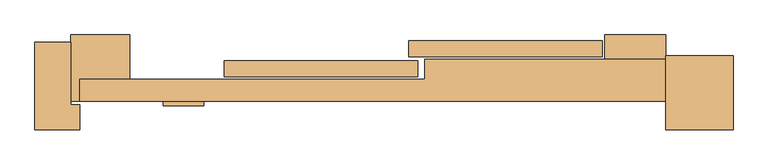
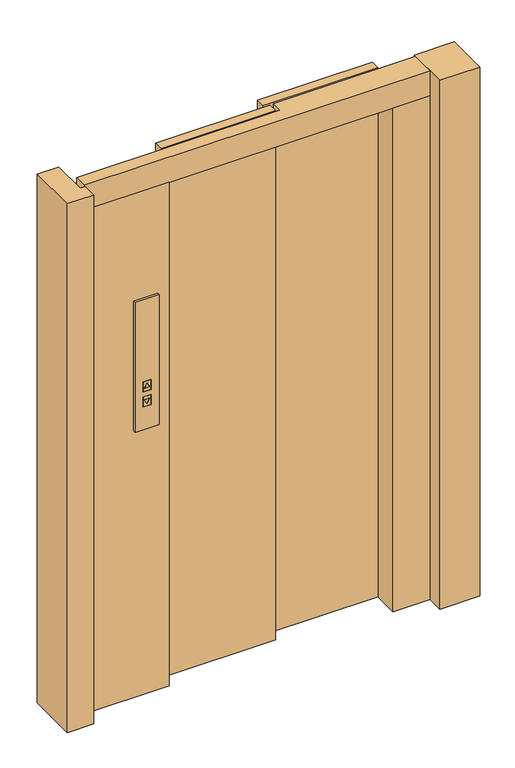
"""IFC4 building model written with IfcOpenShell, lengths in millimetres: door geometry, エレベータ住宅用ドア - トランク付 : 9 人乗."""

import ifcopenshell
import ifcopenshell.guid

model = None  # the IFC model being written
_history = None  # IfcOwnerHistory: only IFC2X3 demands one
_inside = {}  # id of a spatial element -> (the spatial element, [elements in it])
_under = {}  # id of a project, library or spatial element -> (it, [spatial elements below it])
_declared = {}  # id of a project -> (the project, [libraries it declares])
_typed = {}  # id of a type object -> (the type object, [elements of that type])
_made_of = {}  # id of a material, layer set ... -> (it, [elements and type objects made of it])


def new_model(schema):
    """Start an empty IFC model of exactly this schema.

    Asked for "IFC4X3", IfcOpenShell would pick the latest addendum, in which some entities
    have other attributes; the version numbers below select the first issue.
    IFC2X3 requires an IfcOwnerHistory on every rooted entity: one is made here for all.
    """
    global model, _history
    if schema == "IFC4X3":
        model = ifcopenshell.file(schema_version=(4, 3, 0, 0))
    else:
        model = ifcopenshell.file(schema=schema)
    _inside.clear()
    _under.clear()
    _declared.clear()
    _typed.clear()
    _made_of.clear()
    _history = None
    if model.schema == "IFC2X3":
        org = make("IfcOrganization", Name="unknown")
        user = make(
            "IfcPersonAndOrganization",
            ThePerson=make("IfcPerson", FamilyName="unknown"),
            TheOrganization=org,
        )
        app = make(
            "IfcApplication",
            ApplicationDeveloper=org,
            Version="unknown",
            ApplicationFullName="unknown",
            ApplicationIdentifier="unknown",
        )
        _history = make(
            "IfcOwnerHistory",
            OwningUser=user,
            OwningApplication=app,
            ChangeAction="ADDED",
            CreationDate=0,
        )
    return model


def make(cls, **values):
    """One entity of the class cls with the attributes given. An attribute that is None is left unset."""
    return model.create_entity(
        cls, **{name: value for name, value in values.items() if value is not None}
    )


def rooted(cls, **values):
    """An entity with a GlobalId (a new one), such as an element, a storey or a relation."""
    return make(cls, GlobalId=ifcopenshell.guid.new(), OwnerHistory=_history, **values)


def si_unit(unit_type, name, prefix=None):
    """IfcSIUnit, for example si_unit("LENGTHUNIT", "METRE", prefix="MILLI")."""
    return make("IfcSIUnit", UnitType=unit_type, Prefix=prefix, Name=name)


def assignment(units):
    """IfcUnitAssignment: the units of a project."""
    return None if units is None else make("IfcUnitAssignment", Units=units)


def point(xyz):
    """IfcCartesianPoint."""
    return None if xyz is None else make("IfcCartesianPoint", Coordinates=xyz)


def direction(xyz):
    """IfcDirection."""
    return None if xyz is None else make("IfcDirection", DirectionRatios=xyz)


def frame(location, z_axis=None, x_axis=None):
    """IfcAxis2Placement3D, a coordinate frame: its origin and axes. An axis left out is left unset."""
    return make(
        "IfcAxis2Placement3D",
        Location=point(location),
        Axis=direction(z_axis),
        RefDirection=direction(x_axis),
    )


def origin():
    """The frame at (0, 0, 0) with its axes left unset."""
    return frame((0.0, 0.0, 0.0))


def origin_with_axes():
    """The frame at (0, 0, 0) with the z axis (0, 0, 1) and the x axis (1, 0, 0) written out."""
    return frame((0.0, 0.0, 0.0), z_axis=(0.0, 0.0, 1.0), x_axis=(1.0, 0.0, 0.0))


def place(relative_to, where):
    """IfcLocalPlacement: puts the frame where relative to a parent placement (None: the world)."""
    return make(
        "IfcLocalPlacement", PlacementRelTo=relative_to, RelativePlacement=where
    )


def context(
    kind, dimensions, precision=None, world=None, true_north=None, identifier=None
):
    """IfcGeometricRepresentationContext, for example the 3D "Model" context."""
    return make(
        "IfcGeometricRepresentationContext",
        ContextIdentifier=identifier,
        ContextType=kind,
        CoordinateSpaceDimension=dimensions,
        Precision=precision,
        WorldCoordinateSystem=world,
        TrueNorth=true_north,
    )


def project(units=None, contexts=None):
    """IfcProject with its units and contexts."""
    return rooted(
        "IfcProject",
        Name="project",
        RepresentationContexts=contexts,
        UnitsInContext=assignment(units),
    )


def spatial(cls, under=None, at=None, **own):
    """A site, building, storey or space (cls), placed at a placement, below another one or the project."""
    s = rooted(cls, ObjectPlacement=at, **own)
    if under is not None:
        _under.setdefault(under.id(), (under, []))[1].append(s)
    return s


def polyline(points):
    """IfcPolyline through the points."""
    return make("IfcPolyline", Points=[point(p) for p in points])


def outline(outer, holes=None, kind="AREA"):
    """IfcArbitraryClosedProfileDef: a profile drawn as a closed curve; with holes, ...WithVoids."""
    if holes is None:
        return make("IfcArbitraryClosedProfileDef", ProfileType=kind, OuterCurve=outer)
    return make(
        "IfcArbitraryProfileDefWithVoids",
        ProfileType=kind,
        OuterCurve=outer,
        InnerCurves=holes,
    )


def extrude(swept, where, along, depth):
    """IfcExtrudedAreaSolid: the profile swept, set in the frame where, extruded along a direction by depth."""
    return make(
        "IfcExtrudedAreaSolid",
        SweptArea=swept,
        Position=where,
        ExtrudedDirection=direction(along),
        Depth=depth,
    )


def shape(context_of_items, identifier, shape_type, items):
    """IfcShapeRepresentation: the items that make up one representation, for example the "Body"."""
    return make(
        "IfcShapeRepresentation",
        ContextOfItems=context_of_items,
        RepresentationIdentifier=identifier,
        RepresentationType=shape_type,
        Items=items,
    )


def source(mapping_origin, context_of_items, identifier, shape_type, items):
    """IfcRepresentationMap: a shape defined once, which mapped items show again and again."""
    return make(
        "IfcRepresentationMap",
        MappingOrigin=mapping_origin,
        MappedRepresentation=shape(context_of_items, identifier, shape_type, items),
    )


def transform(
    local_origin,
    x_axis=None,
    y_axis=None,
    z_axis=None,
    scale=None,
    scale2=None,
    scale3=None,
    uniform=True,
):
    """IfcCartesianTransformationOperator3D, or its non-uniform kind. x_axis, y_axis, z_axis: its Axis1, 2, 3."""
    if uniform:
        return make(
            "IfcCartesianTransformationOperator3D",
            Axis1=direction(x_axis),
            Axis2=direction(y_axis),
            LocalOrigin=point(local_origin),
            Scale=scale,
            Axis3=direction(z_axis),
        )
    return make(
        "IfcCartesianTransformationOperator3DnonUniform",
        Axis1=direction(x_axis),
        Axis2=direction(y_axis),
        LocalOrigin=point(local_origin),
        Scale=scale,
        Axis3=direction(z_axis),
        Scale2=scale2,
        Scale3=scale3,
    )


def mapped(mapping_source, mapping_target):
    """IfcMappedItem: shows the shape of a source again, moved by a transform."""
    return make(
        "IfcMappedItem", MappingSource=mapping_source, MappingTarget=mapping_target
    )


def made_of(thing, what):
    """Note that an element or type object is made of a material, layer set ...; save() writes the relation."""
    if what is not None:
        _made_of.setdefault(what.id(), (what, []))[1].append(thing)
    return thing


def element(
    cls,
    number,
    at=None,
    inside=None,
    cuts=None,
    type_object=None,
    material=None,
    context=None,
    identifier="Body",
    shape_type=None,
    held_by="IfcProductDefinitionShape",
    body=None,
    shapes=None,
    **own,
):
    """One element of the class cls, such as IfcWall. Its Tag is "e" and its number.

    at: its placement. inside: the storey or other place that contains it. cuts: it is an
    opening in that element (IfcRelVoidsElement). A single representation is given by context,
    identifier, shape_type and body (its items); several are given by shapes. held_by: the class
    of the entity that holds the representations. save() writes the other relations.
    """
    e = rooted(cls, Tag="e%d" % number, ObjectPlacement=at, **own)
    if body is not None:
        shapes = [shape(context, identifier, shape_type, body)]
    if shapes is not None:
        e.Representation = make(held_by, Representations=shapes)
    if inside is not None:
        _inside.setdefault(inside.id(), (inside, []))[1].append(e)
    if cuts is not None:
        rooted(
            "IfcRelVoidsElement", RelatingBuildingElement=cuts, RelatedOpeningElement=e
        )
    if type_object is not None:
        _typed.setdefault(type_object.id(), (type_object, []))[1].append(e)
    return made_of(e, material)


def aggregate(whole, parts):
    """IfcRelAggregates: a whole, such as a stair, and the parts it consists of."""
    return rooted("IfcRelAggregates", RelatingObject=whole, RelatedObjects=parts)


def save(model, path):
    """Write the relations noted so far, then the file.

    IfcRelAggregates (storeys below a building ...), IfcRelContainedInSpatialStructure (elements
    in a storey), IfcRelDefinesByType, IfcRelAssociatesMaterial and IfcRelDeclares: one each for
    every whole, place, type object, material and project.
    """
    for whole, parts in _under.values():
        aggregate(whole, parts)
    for where, things in _inside.values():
        rooted(
            "IfcRelContainedInSpatialStructure",
            RelatedElements=things,
            RelatingStructure=where,
        )
    for kind, things in _typed.values():
        rooted("IfcRelDefinesByType", RelatedObjects=things, RelatingType=kind)
    for what, things in _made_of.values():
        rooted("IfcRelAssociatesMaterial", RelatedObjects=things, RelatingMaterial=what)
    for by, libraries in _declared.values():
        rooted("IfcRelDeclares", RelatingContext=by, RelatedDefinitions=libraries)
    model.write(path)


def door_6b3f1a68(model_context):
    return source(origin(), model_context, "Body", "SweptSolid", [
        extrude(outline(polyline([(-315.0, 5.0), (-315.0, 41.0), (115.0, 41.0), (115.0, 5.0), (-315.0, 5.0)])), origin_with_axes(), (0.0, 0.0, 1.0), 2100.0),
        extrude(outline(polyline([(95.0, 49.9), (95.0, 85.9), (525.0, 85.9), (525.0, 49.9), (95.0, 49.9)])), origin_with_axes(), (0.0, 0.0, 1.0), 2100.0),
        extrude(outline(polyline([(665.0, 98.4), (665.0, -49.1), (525.0, -49.1), (525.0, 44.9), (530.0, 44.9), (530.0, 98.4), (665.0, 98.4)])), origin_with_axes(), (0.0, 0.0, 1.0), 2000.0),
        extrude(outline(polyline([(-315.0, -49.1), (-655.0, -49.1), (-655.0, 98.4), (-525.0, 98.4), (-525.0, 0.0), (-315.0, 0.0), (-315.0, -49.1)])), origin_with_axes(), (0.0, 0.0, 1.0), 2000.0),
        extrude(outline(polyline([(665.0, 52.4), (815.0, 52.4), (815.0, -112.5), (665.0, -112.5), (665.0, 52.4)])), origin_with_axes(), (0.0, 0.0, 1.0), 2100.0),
        extrude(outline(polyline([(-735.0, 82.5), (-655.0, 82.5), (-655.0, -56.6), (-635.0, -56.6), (-635.0, -112.5), (-735.0, -112.5), (-735.0, 82.5)])), origin_with_axes(), (0.0, 0.0, 1.0), 2100.0),
        extrude(outline(polyline([(1574.9827702, -359.7341332), (1574.9827702, -449.7341332), (1059.9827702, -449.7341332), (1059.9827702, -359.7341332), (1574.9827702, -359.7341332)]), holes=[polyline([(1189.7642913, -389.7341332), (1149.7642913, -389.7341332), (1149.7642913, -419.7341332), (1189.7642913, -419.7341332), (1189.7642913, -389.7341332)]), polyline([(1209.7642913, -419.7341332), (1249.7642913, -419.7341332), (1249.7642913, -389.7341332), (1209.7642913, -389.7341332), (1209.7642913, -419.7341332)])]), frame((0.0, -59.1, 0.0), z_axis=(0.0, 1.0, 0.0), x_axis=(0.0, 0.0, 1.0)), (0.0, 0.0, 1.0), 10.0),
        extrude(outline(polyline([(1189.7642913, -419.7341332), (1149.7642913, -419.7341332), (1149.7642913, -389.7341332), (1189.7642913, -389.7341332), (1189.7642913, -419.7341332)]), holes=[polyline([(1177.0847993, -394.7341332), (1159.7642913, -404.7341332), (1177.0847993, -414.7341332), (1177.0847993, -394.7341332)])]), frame((0.0, -59.1, 0.0), z_axis=(0.0, 1.0, 0.0), x_axis=(0.0, 0.0, 1.0)), (0.0, 0.0, 1.0), 5.0),
        extrude(outline(polyline([(1249.7642913, -419.7341332), (1209.7642913, -419.7341332), (1209.7642913, -389.7341332), (1249.7642913, -389.7341332), (1249.7642913, -419.7341332)]), holes=[polyline([(1222.4437832, -414.7341332), (1239.7642913, -404.7341332), (1222.4437832, -394.7341332), (1222.4437832, -414.7341332)])]), frame((0.0, -59.1, 0.0), z_axis=(0.0, 1.0, 0.0), x_axis=(0.0, 0.0, 1.0)), (0.0, 0.0, 1.0), 5.0),
        extrude(outline(polyline([(1177.0847993, -414.7341332), (1159.7642913, -404.7341332), (1177.0847993, -394.7341332), (1177.0847993, -414.7341332)])), frame((0.0, -59.1, 0.0), z_axis=(0.0, 1.0, 0.0), x_axis=(0.0, 0.0, 1.0)), (0.0, 0.0, 1.0), 5.0),
        extrude(outline(polyline([(1239.7642913, -404.7341332), (1222.4437832, -414.7341332), (1222.4437832, -394.7341332), (1239.7642913, -404.7341332)])), frame((0.0, -59.1, 0.0), z_axis=(0.0, 1.0, 0.0), x_axis=(0.0, 0.0, 1.0)), (0.0, 0.0, 1.0), 5.0),
        extrude(outline(polyline([(665.0, 44.9), (665.0, -49.1), (-635.0, -49.1), (-635.0, 0.0), (130.0, 0.0), (130.0, 44.9), (665.0, 44.9)])), frame((0.0, 0.0, 2000.0), z_axis=(0.0, 0.0, 1.0), x_axis=(1.0, 0.0, 0.0)), (0.0, 0.0, 1.0), 100.0),
    ])


if __name__ == "__main__":
    model = new_model("IFC4")
    model_context = context("Model", 3, world=origin())
    ifc_project = project(units=[si_unit("LENGTHUNIT", "METRE", prefix="MILLI")], contexts=[model_context])
    site = spatial("IfcSite", under=ifc_project)
    building = spatial("IfcBuilding", under=site)
    placement = place(None, origin())
    door_shape = door_6b3f1a68(model_context)
    element("IfcDoor", 1, ObjectType="エレベータ住宅用ドア - トランク付 : 9 人乗", at=placement, inside=building, context=model_context, shape_type="MappedRepresentation", body=[
        mapped(door_shape, transform((0.0, 0.0, 0.0), x_axis=(1.0, 0.0, 0.0), y_axis=(0.0, 1.0, 0.0), z_axis=(0.0, 0.0, 1.0))),
    ])
    save(model, "model.ifc")
